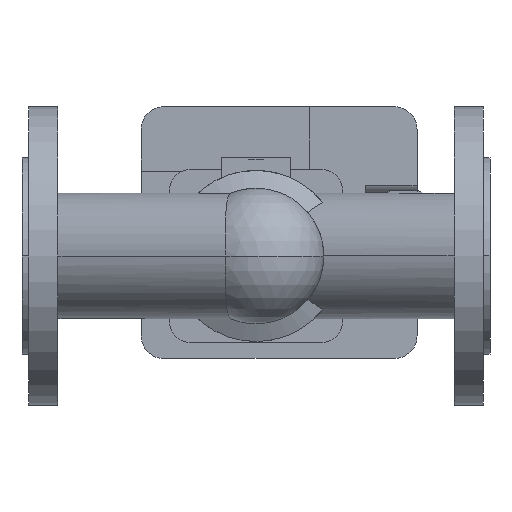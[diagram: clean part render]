
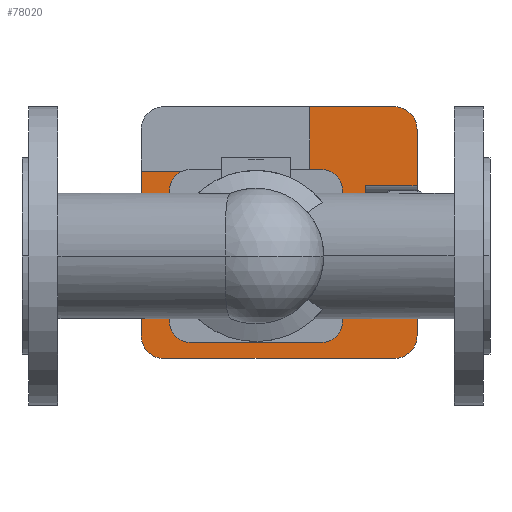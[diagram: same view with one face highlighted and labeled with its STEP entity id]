
A CAD part, front view. The second image highlights one B-rep face of the part: STEP entity #78020.
In plain terms, the highlighted planar face has unit normal (0, -1, 0).
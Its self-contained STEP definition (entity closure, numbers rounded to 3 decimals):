
#59850=CARTESIAN_POINT('',(73.8,574.5,-49.5));
#59860=VERTEX_POINT('',#59850);
#59910=CARTESIAN_POINT('',(87.8,574.5,-49.5));
#59920=DIRECTION('',(0.,1.,0.));
#59930=DIRECTION('',(0.,0.,-1.));
#59940=AXIS2_PLACEMENT_3D('',#59910,#59920,#59930);
#59950=CIRCLE('',#59940,14.);
#59960=CARTESIAN_POINT('',(87.8,574.5,-63.5));
#59970=VERTEX_POINT('',#59960);
#59980=EDGE_CURVE('',#59970,#59860,#59950,.T.);
#60340=CARTESIAN_POINT('',(230.8,574.5,-63.5));
#60350=VERTEX_POINT('',#60340);
#60400=CARTESIAN_POINT('',(230.8,574.5,-49.5));
#60410=DIRECTION('',(0.,1.,0.));
#60420=DIRECTION('',(1.,0.,0.));
#60430=AXIS2_PLACEMENT_3D('',#60400,#60410,#60420);
#60440=CIRCLE('',#60430,14.);
#60450=CARTESIAN_POINT('',(244.8,574.5,-49.5));
#60460=VERTEX_POINT('',#60450);
#60470=EDGE_CURVE('',#60460,#60350,#60440,.T.);
#61010=CARTESIAN_POINT('',(230.8,574.5,92.5));
#61020=VERTEX_POINT('',#61010);
#61050=CARTESIAN_POINT('',(87.8,574.5,92.5));
#61060=DIRECTION('',(1.,0.,0.));
#61070=VECTOR('',#61060,1.);
#61080=LINE('',#61050,#61070);
#61090=CARTESIAN_POINT('',(178.3,574.5,92.5));
#61100=VERTEX_POINT('',#61090);
#61110=EDGE_CURVE('',#61100,#61020,#61080,.T.);
#61460=CARTESIAN_POINT('',(244.8,574.5,78.5));
#61470=VERTEX_POINT('',#61460);
#61520=CARTESIAN_POINT('',(230.8,574.5,78.5));
#61530=DIRECTION('',(0.,1.,0.));
#61540=DIRECTION('',(0.,0.,1.));
#61550=AXIS2_PLACEMENT_3D('',#61520,#61530,#61540);
#61560=CIRCLE('',#61550,14.);
#61570=EDGE_CURVE('',#61020,#61470,#61560,.T.);
#62690=CARTESIAN_POINT('',(244.8,574.5,-16.5));
#62700=VERTEX_POINT('',#62690);
#62730=CARTESIAN_POINT('',(194.9,574.5,-16.5));
#62740=DIRECTION('',(-1.,0.,0.));
#62750=VECTOR('',#62740,1.);
#62760=LINE('',#62730,#62750);
#62770=CARTESIAN_POINT('',(212.8,574.5,-16.5));
#62780=VERTEX_POINT('',#62770);
#62790=EDGE_CURVE('',#62700,#62780,#62760,.T.);
#63420=CARTESIAN_POINT('',(194.9,574.5,43.5));
#63430=DIRECTION('',(1.,0.,0.));
#63440=VECTOR('',#63430,1.);
#63450=LINE('',#63420,#63440);
#63460=CARTESIAN_POINT('',(212.8,574.5,43.5));
#63470=VERTEX_POINT('',#63460);
#63480=CARTESIAN_POINT('',(244.8,574.5,43.5));
#63490=VERTEX_POINT('',#63480);
#63500=EDGE_CURVE('',#63470,#63490,#63450,.T.);
#63850=CARTESIAN_POINT('',(212.8,574.5,0.));
#63860=DIRECTION('',(0.,0.,1.));
#63870=VECTOR('',#63860,1.);
#63880=LINE('',#63850,#63870);
#63890=EDGE_CURVE('',#62780,#63470,#63880,.T.);
#64090=CARTESIAN_POINT('',(244.8,574.5,78.5));
#64100=DIRECTION('',(0.,0.,-1.));
#64110=VECTOR('',#64100,1.);
#64120=LINE('',#64090,#64110);
#64130=EDGE_CURVE('',#61470,#63490,#64120,.T.);
#64180=CARTESIAN_POINT('',(244.8,574.5,78.5));
#64190=DIRECTION('',(0.,0.,-1.));
#64200=VECTOR('',#64190,1.);
#64210=LINE('',#64180,#64200);
#64220=EDGE_CURVE('',#62700,#60460,#64210,.T.);
#64820=CARTESIAN_POINT('',(204.96,574.5,11.216));
#64830=VERTEX_POINT('',#64820);
#64860=CARTESIAN_POINT('',(195.,574.5,0.));
#64870=DIRECTION('',(0.,1.,0.));
#64880=DIRECTION('',(0.,0.,1.));
#64890=AXIS2_PLACEMENT_3D('',#64860,#64870,#64880);
#64900=CIRCLE('',#64890,15.);
#64910=CARTESIAN_POINT('',(204.96,574.5,-11.216));
#64920=VERTEX_POINT('',#64910);
#64930=EDGE_CURVE('',#64830,#64920,#64900,.T.);
#68070=CARTESIAN_POINT('',(187.116,574.5,44.128));
#68080=VERTEX_POINT('',#68070);
#68110=CARTESIAN_POINT('',(145.,574.5,0.));
#68120=DIRECTION('',(0.,1.,0.));
#68130=DIRECTION('',(0.69,0.,0.723));
#68140=AXIS2_PLACEMENT_3D('',#68110,#68120,#68130);
#68150=CIRCLE('',#68140,61.);
#68160=EDGE_CURVE('',#68080,#64830,#68150,.T.);
#68620=CARTESIAN_POINT('',(85.04,574.5,-11.216));
#68630=VERTEX_POINT('',#68620);
#68660=CARTESIAN_POINT('',(95.,574.5,0.));
#68670=DIRECTION('',(0.,1.,0.));
#68680=DIRECTION('',(0.,0.,-1.));
#68690=AXIS2_PLACEMENT_3D('',#68660,#68670,#68680);
#68700=CIRCLE('',#68690,15.);
#68710=CARTESIAN_POINT('',(85.04,574.5,11.216));
#68720=VERTEX_POINT('',#68710);
#68730=EDGE_CURVE('',#68630,#68720,#68700,.T.);
#70070=CARTESIAN_POINT('',(102.884,574.5,-44.128));
#70080=VERTEX_POINT('',#70070);
#70110=CARTESIAN_POINT('',(145.,574.5,0.));
#70120=DIRECTION('',(0.,1.,0.));
#70130=DIRECTION('',(-0.69,0.,-0.723));
#70140=AXIS2_PLACEMENT_3D('',#70110,#70120,#70130);
#70150=CIRCLE('',#70140,61.);
#70160=EDGE_CURVE('',#70080,#68630,#70150,.T.);
#73070=CARTESIAN_POINT('',(230.8,574.5,-63.5));
#73080=DIRECTION('',(-1.,0.,0.));
#73090=VECTOR('',#73080,1.);
#73100=LINE('',#73070,#73090);
#73110=EDGE_CURVE('',#60350,#59970,#73100,.T.);
#76910=CARTESIAN_POINT('',(145.,574.5,0.));
#76920=DIRECTION('',(0.,1.,0.));
#76930=DIRECTION('',(0.,0.,1.));
#76940=AXIS2_PLACEMENT_3D('',#76910,#76920,#76930);
#76950=PLANE('',#76940);
#76960=ORIENTED_EDGE('',*,*,#63890,.T.);
#76970=ORIENTED_EDGE('',*,*,#62790,.T.);
#76980=ORIENTED_EDGE('',*,*,#64220,.F.);
#76990=ORIENTED_EDGE('',*,*,#60470,.F.);
#77000=ORIENTED_EDGE('',*,*,#73110,.F.);
#77010=ORIENTED_EDGE('',*,*,#59980,.F.);
#77020=CARTESIAN_POINT('',(73.8,574.5,-49.5));
#77030=DIRECTION('',(0.,0.,1.));
#77040=VECTOR('',#77030,1.);
#77050=LINE('',#77020,#77040);
#77060=CARTESIAN_POINT('',(73.8,574.5,52.5));
#77070=VERTEX_POINT('',#77060);
#77080=EDGE_CURVE('',#59860,#77070,#77050,.T.);
#77090=ORIENTED_EDGE('',*,*,#77080,.F.);
#77100=CARTESIAN_POINT('',(108.9,574.5,52.5));
#77110=DIRECTION('',(-1.,0.,0.));
#77120=VECTOR('',#77110,1.);
#77130=LINE('',#77100,#77120);
#77140=CARTESIAN_POINT('',(178.3,574.5,52.5));
#77150=VERTEX_POINT('',#77140);
#77160=EDGE_CURVE('',#77150,#77070,#77130,.T.);
#77170=ORIENTED_EDGE('',*,*,#77160,.T.);
#77180=CARTESIAN_POINT('',(178.3,574.5,26.25));
#77190=DIRECTION('',(0.,0.,-1.));
#77200=VECTOR('',#77190,1.);
#77210=LINE('',#77180,#77200);
#77220=EDGE_CURVE('',#61100,#77150,#77210,.T.);
#77230=ORIENTED_EDGE('',*,*,#77220,.T.);
#77240=ORIENTED_EDGE('',*,*,#61110,.F.);
#77250=ORIENTED_EDGE('',*,*,#61570,.F.);
#77260=ORIENTED_EDGE('',*,*,#64130,.F.);
#77270=ORIENTED_EDGE('',*,*,#63500,.T.);
#77280=EDGE_LOOP('',(#77270,#77260,#77250,#77240,#77230,#77170,#77090,
#77010,#77000,#76990,#76980,#76970,#76960));
#77290=FACE_OUTER_BOUND('',#77280,.T.);
#77300=ORIENTED_EDGE('',*,*,#68160,.T.);
#77310=CARTESIAN_POINT('',(177.45,574.5,34.));
#77320=DIRECTION('',(0.,1.,0.));
#77330=DIRECTION('',(0.,0.,1.));
#77340=AXIS2_PLACEMENT_3D('',#77310,#77320,#77330);
#77350=CIRCLE('',#77340,14.);
#77360=CARTESIAN_POINT('',(177.45,574.5,48.));
#77370=VERTEX_POINT('',#77360);
#77380=EDGE_CURVE('',#77370,#68080,#77350,.T.);
#77390=ORIENTED_EDGE('',*,*,#77380,.T.);
#77400=CARTESIAN_POINT('',(128.775,574.5,48.));
#77410=DIRECTION('',(1.,0.,0.));
#77420=VECTOR('',#77410,1.);
#77430=LINE('',#77400,#77420);
#77440=CARTESIAN_POINT('',(112.55,574.5,48.));
#77450=VERTEX_POINT('',#77440);
#77460=EDGE_CURVE('',#77450,#77370,#77430,.T.);
#77470=ORIENTED_EDGE('',*,*,#77460,.T.);
#77480=CARTESIAN_POINT('',(112.55,574.5,34.));
#77490=DIRECTION('',(0.,1.,0.));
#77500=DIRECTION('',(-0.69,0.,0.723));
#77510=AXIS2_PLACEMENT_3D('',#77480,#77490,#77500);
#77520=CIRCLE('',#77510,14.);
#77530=CARTESIAN_POINT('',(102.884,574.5,44.128));
#77540=VERTEX_POINT('',#77530);
#77550=EDGE_CURVE('',#77540,#77450,#77520,.T.);
#77560=ORIENTED_EDGE('',*,*,#77550,.T.);
#77570=CARTESIAN_POINT('',(145.,574.5,0.));
#77580=DIRECTION('',(0.,1.,0.));
#77590=DIRECTION('',(-0.69,0.,-0.723));
#77600=AXIS2_PLACEMENT_3D('',#77570,#77580,#77590);
#77610=CIRCLE('',#77600,61.);
#77620=EDGE_CURVE('',#68720,#77540,#77610,.T.);
#77630=ORIENTED_EDGE('',*,*,#77620,.T.);
#77640=ORIENTED_EDGE('',*,*,#68730,.T.);
#77650=ORIENTED_EDGE('',*,*,#70160,.T.);
#77660=CARTESIAN_POINT('',(112.55,574.5,-34.));
#77670=DIRECTION('',(0.,1.,0.));
#77680=DIRECTION('',(0.,0.,-1.));
#77690=AXIS2_PLACEMENT_3D('',#77660,#77670,#77680);
#77700=CIRCLE('',#77690,14.);
#77710=CARTESIAN_POINT('',(112.55,574.5,-48.));
#77720=VERTEX_POINT('',#77710);
#77730=EDGE_CURVE('',#77720,#70080,#77700,.T.);
#77740=ORIENTED_EDGE('',*,*,#77730,.T.);
#77750=CARTESIAN_POINT('',(161.225,574.5,-48.));
#77760=DIRECTION('',(-1.,0.,0.));
#77770=VECTOR('',#77760,1.);
#77780=LINE('',#77750,#77770);
#77790=CARTESIAN_POINT('',(177.45,574.5,-48.));
#77800=VERTEX_POINT('',#77790);
#77810=EDGE_CURVE('',#77800,#77720,#77780,.T.);
#77820=ORIENTED_EDGE('',*,*,#77810,.T.);
#77830=CARTESIAN_POINT('',(177.45,574.5,-34.));
#77840=DIRECTION('',(0.,1.,0.));
#77850=DIRECTION('',(0.69,0.,-0.723));
#77860=AXIS2_PLACEMENT_3D('',#77830,#77840,#77850);
#77870=CIRCLE('',#77860,14.);
#77880=CARTESIAN_POINT('',(187.116,574.5,-44.128));
#77890=VERTEX_POINT('',#77880);
#77900=EDGE_CURVE('',#77890,#77800,#77870,.T.);
#77910=ORIENTED_EDGE('',*,*,#77900,.T.);
#77920=CARTESIAN_POINT('',(145.,574.5,0.));
#77930=DIRECTION('',(0.,1.,0.));
#77940=DIRECTION('',(0.69,0.,0.723));
#77950=AXIS2_PLACEMENT_3D('',#77920,#77930,#77940);
#77960=CIRCLE('',#77950,61.);
#77970=EDGE_CURVE('',#64920,#77890,#77960,.T.);
#77980=ORIENTED_EDGE('',*,*,#77970,.T.);
#77990=ORIENTED_EDGE('',*,*,#64930,.T.);
#78000=EDGE_LOOP('',(#77990,#77980,#77910,#77820,#77740,#77650,#77640,
#77630,#77560,#77470,#77390,#77300));
#78010=FACE_BOUND('',#78000,.T.);
#78020=ADVANCED_FACE('',(#77290,#78010),#76950,.F.);
